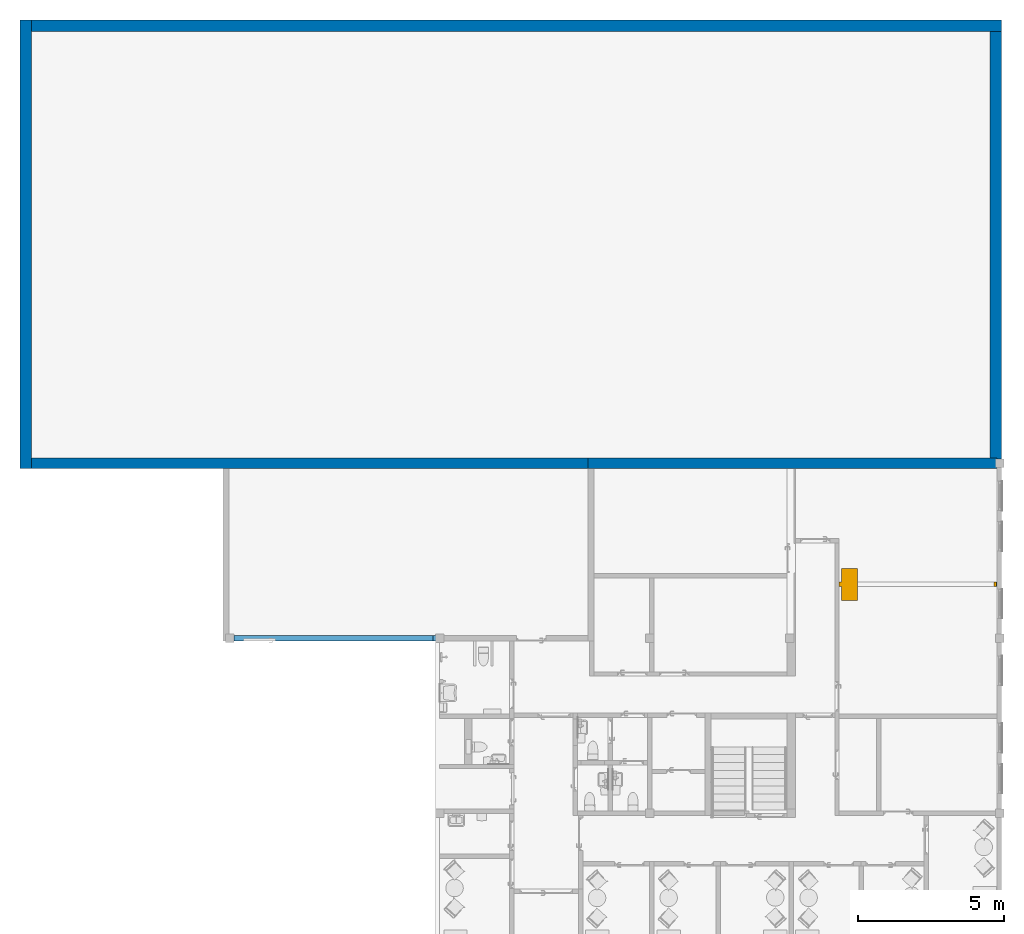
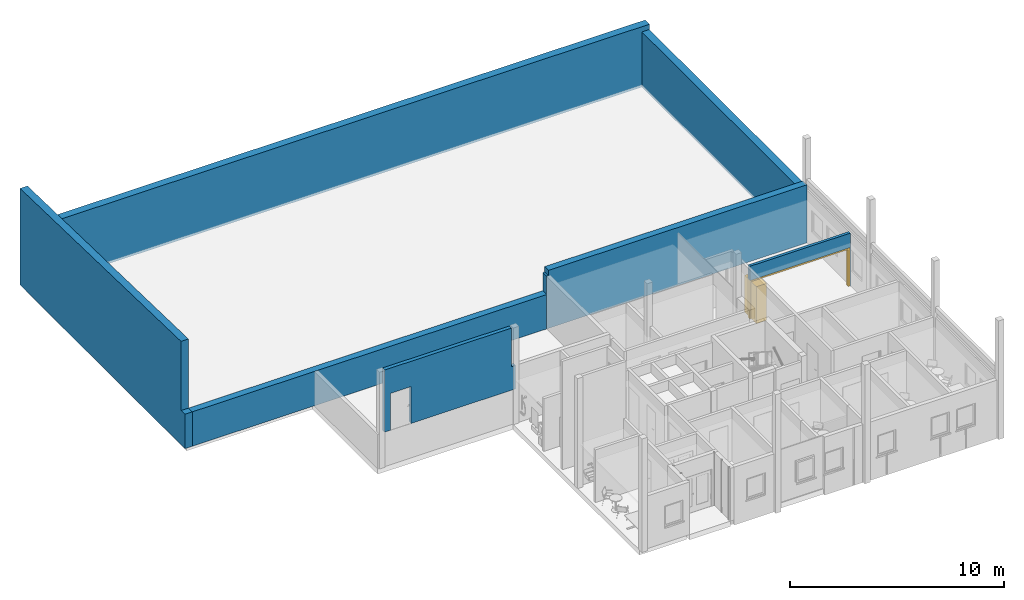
# One storey, part 36 of 58: 7 walls, 1 door, 2 openings.
"""IFC2X3 building model written with IfcOpenShell, lengths in millimetres."""

from ifc_helpers import new_model, entity, si_unit, converted_unit, derived_unit, direction, frame, frame_2d, origin, origin_2d_with_axis, place, context, subcontext, project, spatial, polyline, rectangle, outline, extrude, clip, bounded_halfspace, faceted_brep, source, transform, mapped, material, layer, layer_set, layer_usage, type_object, type_shapes, element, fill, save


model = new_model("IFC2X3")

# Units and contexts
model_context = context("Model", 3, precision=0.01, world=origin(), true_north=direction((0.7716245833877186, 0.6360782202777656)))
body_context = subcontext(model_context, "Body", "Model", "MODEL_VIEW")
ifc_project = project(units=[si_unit("LENGTHUNIT", "METRE", prefix="MILLI"), si_unit("AREAUNIT", "SQUARE_METRE"), converted_unit("PLANEANGLEUNIT", "DEGREE", entity("IfcPlaneAngleMeasure", 0.017453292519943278), si_unit("PLANEANGLEUNIT", "RADIAN"), dimensions=[0, 0, 0, 0, 0, 0, 0]), derived_unit("THERMALTRANSMITTANCEUNIT", [(si_unit("MASSUNIT", "GRAM", prefix="KILO"), 1), (si_unit("THERMODYNAMICTEMPERATUREUNIT", "KELVIN"), -1), (si_unit("TIMEUNIT", "SECOND"), -3)])], contexts=[model_context])

# Site, building, storey
site_placement = place(None, origin())
site = spatial("IfcSite", under=ifc_project, at=site_placement, Name="Default", CompositionType="ELEMENT")
building_placement = place(site_placement, origin())
building = spatial("IfcBuilding", under=site, at=building_placement, CompositionType="ELEMENT")
storey_placement = place(building_placement, frame((0.0, 0.0, 31140.0)))
storey = spatial("IfcBuildingStorey", under=building, at=storey_placement, Name="PLAN U1", CompositionType="ELEMENT", Elevation=31140.000000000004)

# Walls
ifc_material_1 = material(Name="Eksist. yttervegg")
ifc_layer_1 = layer(ifc_material_1, 400.0)
ifc_layer_set_1 = layer_set([ifc_layer_1], Name="Basic Wall:230 Eksist. yttervegg 400 mm")
ifc_layer_usage_1 = layer_usage(ifc_layer_set_1, "AXIS2", "NEGATIVE", 200.0)
wall_type_1 = type_object("IfcWallType", Name="Basic Wall:230 Eksist. yttervegg 400 mm", PredefinedType="STANDARD", material=ifc_layer_set_1)
wall_1_placement = place(storey_placement, frame((244724.00900454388, 86318.46747209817, -140.0)))
element("IfcWallStandardCase", 1, at=wall_1_placement, inside=storey, type_object=wall_type_1, material=ifc_layer_usage_1, Name="Basic Wall:230 Eksist. yttervegg 400 mm", ObjectType="Basic Wall:230 Eksist. yttervegg 400 mm", context=body_context, shape_type="SweptSolid", body=[
    extrude(rectangle(XDim=33266.24834305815, YDim=400.000000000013, at=frame_2d((16633.124171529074, 0.0), x_axis=(-1.0, 0.0))), origin(), (0.0, 0.0, 1.0), 3439.9999999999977),
])
wall_2_placement = place(storey_placement, frame((244524.00900454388, 71135.25555007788, 0.0), z_axis=(0.0, 0.0, 1.0), x_axis=(0.0, 1.0, 0.0)))
element("IfcWall", 2, at=wall_2_placement, inside=storey, type_object=wall_type_1, Name="Basic Wall:230 Eksist. yttervegg 400 mm", ObjectType="Basic Wall:230 Eksist. yttervegg 400 mm", context=body_context, shape_type="Brep", body=[
    faceted_brep([(0.0, -200.0, 0.0), (360.0, -200.0, 0.0), (15383.211922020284, -200.0, 0.0), (15383.211922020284, -200.0, 3300.0), (15383.211922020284, -200.0, 5499.224158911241), (360.0, -200.0, 5892.620808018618), (360.0, -200.0, 1960.0), (0.0, -200.0, 1960.0), (0.0, 200.0, 0.0), (0.0, 200.0, 1960.0), (360.0, 200.0, 1960.0), (360.0, 200.0, 5892.620808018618), (15383.211922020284, 200.0, 5499.224158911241), (15383.211922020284, 200.0, 0.0)], [[[0, 1, 2, 3, 4, 5, 6, 7]], [[8, 9, 10, 11, 12, 13]], [[2, 1, 0, 8, 13]], [[4, 3, 2, 13, 12]], [[6, 10, 9, 7]], [[0, 7, 9, 8]], [[6, 5, 11, 10]], [[5, 4, 12, 11]]]),
])
wall_3_placement = place(storey_placement, frame((277790.25734760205, 86118.46747209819, -140.0), z_axis=(0.0, 0.0, 1.0), x_axis=(0.0, -1.0, 0.0)))
element("IfcWall", 3, at=wall_3_placement, inside=storey, type_object=wall_type_1, Name="Basic Wall:230 Eksist. yttervegg 400 mm", ObjectType="Basic Wall:230 Eksist. yttervegg 400 mm", context=body_context, shape_type="Brep", body=[
    faceted_brep([(0.0, -200.0, 0.0), (14653.21192202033, -200.0, 0.0), (14653.21192202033, -200.0, 140.0), (14623.211922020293, -200.0, 140.0), (14623.211922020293, -200.0, 3140.0), (0.0, -200.0, 3140.0), (14653.21192202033, 200.0, 0.0), (0.0, 200.0, 0.0), (0.0, 200.0, 3140.0), (14653.21192202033, 200.0, 3140.0), (14653.21192202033, 40.0, 3140.0), (14653.21192202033, 40.0, 140.0), (14623.211922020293, 40.0, 140.0), (14623.211922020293, 40.0, 3140.0)], [[[0, 1, 2, 3, 4, 5]], [[6, 7, 8, 9]], [[1, 0, 7, 6]], [[1, 6, 9, 10, 11, 2]], [[7, 0, 5, 8]], [[3, 12, 13, 4]], [[12, 3, 2, 11]], [[12, 11, 10, 13]], [[5, 4, 13, 10, 9, 8]]]),
])
ifc_layer_2 = layer(ifc_material_1, 360.0)
ifc_layer_set_2 = layer_set([ifc_layer_2], Name="Basic Wall:230 Generisk yttervegg 360 mm")
wall_type_2 = type_object("IfcWallType", Name="Basic Wall:230 Generisk yttervegg 360 mm", PredefinedType="STANDARD", material=ifc_layer_set_2)
wall_4_placement = place(storey_placement, frame((277830.257347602, 71315.2555500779, 0.0), z_axis=(0.0, 0.0, 1.0), x_axis=(-1.0, 0.0, 0.0)))
element("IfcWall", 4, at=wall_4_placement, inside=storey, type_object=wall_type_2, Name="Basic Wall:230 Generisk yttervegg 360 mm", ObjectType="Basic Wall:230 Generisk yttervegg 360 mm", context=body_context, shape_type="Brep", body=[
    faceted_brep([(0.0, -180.0, 0.0), (240.0, -180.0, 0.0), (14022.332901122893, -180.0, 0.0), (14022.332901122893, -180.0, 1960.0), (14022.332901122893, -180.0, 3000.0), (13922.332901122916, -180.0, 3000.0), (13922.332901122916, -180.0, 3300.0), (0.0, -180.0, 3300.0), (0.0, -180.0, 3000.0), (0.0, 180.0, 0.0), (0.0, 180.0, 3300.0), (13922.332901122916, 180.0, 3300.0), (13922.332901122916, 180.0, 3000.0), (14022.332901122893, 180.0, 3000.0), (14022.332901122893, 180.0, 1960.0), (14022.332901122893, 180.0, 0.0), (13822.332901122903, 180.0, 0.0), (7212.332901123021, 180.0, 0.0), (6912.33290112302, 180.0, 0.0), (0.0, -150.0, 0.0)], [[[0, 1, 2, 3, 4, 5, 6, 7, 8]], [[9, 10, 11, 12, 13, 14, 15, 16, 17, 18]], [[2, 1, 0, 19, 9, 18, 17, 16, 15]], [[7, 6, 11, 10]], [[0, 8, 7, 10, 9, 19]], [[6, 5, 12, 11]], [[12, 5, 4, 13]], [[2, 15, 14, 13, 4, 3]]]),
])
ifc_layer_usage_2 = layer_usage(ifc_layer_set_2, "AXIS2", "NEGATIVE", 180.0)
wall_5_placement = place(storey_placement, frame((263807.9244464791, 71315.2555500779, 0.0), z_axis=(0.0, 0.0, 1.0), x_axis=(-1.0, 0.0, 0.0)))
element("IfcWallStandardCase", 5, at=wall_5_placement, inside=storey, type_object=wall_type_2, material=ifc_layer_usage_2, Name="Basic Wall:230 Generisk yttervegg 360 mm", ObjectType="Basic Wall:230 Generisk yttervegg 360 mm", context=body_context, shape_type="Clipping", body=[
    clip(extrude(rectangle(XDim=19083.915441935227, YDim=360.0000000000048, at=frame_2d((9541.957720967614, 0.0), x_axis=(-1.0, 0.0))), origin(), (0.0, 0.0, 1.0), 1959.9999999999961), bounded_halfspace(frame((0.0, -180.0, 1960.0), z_axis=(0.0, 0.0, -1.0), x_axis=(0.0, 1.0, 0.0)), True, frame((0.0, -180.0, 1960.0)), polyline([(0.0, 0.0), (19083.915441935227, 0.0), (19083.915441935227, 360.0), (12514.941867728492, 360.0), (12314.941867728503, 360.0), (0.0, 360.0), (0.0, 0.0)]))),
])

# Wall, opening, door
ifc_material_2 = material(Name="Eksist. vegg")
ifc_layer_3 = layer(ifc_material_2, 150.0)
ifc_layer_set_3 = layer_set([ifc_layer_3], Name="Basic Wall:240 Eksist. Innervegg 150 mm")
ifc_layer_usage_3 = layer_usage(ifc_layer_set_3, "AXIS2", "NEGATIVE", 75.0)
wall_type_3 = type_object("IfcWallType", Name="Basic Wall:240 Eksist. Innervegg 150 mm", PredefinedType="STANDARD", material=ifc_layer_set_3)
wall_6_placement = place(storey_placement, frame((272417.924446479, 67168.42310718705, 0.0)))
wall_6 = element("IfcWallStandardCase", 6, at=wall_6_placement, inside=storey, type_object=wall_type_3, material=ifc_layer_usage_3, Name="Basic Wall:240 Eksist. Innervegg 150 mm", ObjectType="Basic Wall:240 Eksist. Innervegg 150 mm", context=body_context, shape_type="SweptSolid", body=[
    extrude(rectangle(XDim=5412.332901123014, YDim=150.00000000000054, at=frame_2d((2706.166450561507, 0.0), x_axis=(-1.0, 0.0))), origin(), (0.0, 0.0, 1.0), 2999.9999999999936),
])
opening_1_placement = place(wall_6_placement, frame((5400.0, 75.0, 0.0)))
opening_1 = element("IfcOpeningElement", 7, at=opening_1_placement, cuts=wall_6, Name="FOLDEVEGG:244 Innvendig, FOLDE 5400x2100:1", ObjectType="Opening", context=body_context, shape_type="SweptSolid", body=[
    extrude(rectangle(XDim=2180.9999999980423, YDim=5399.999999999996, at=frame_2d((1090.4999999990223, 2700.000000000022), x_axis=(1.0, 0.0))), frame((0.0, 0.0, 0.0), z_axis=(0.0, -1.0, 0.0), x_axis=(0.0, 0.0, 1.0)), (0.0, 0.0, 1.0), 150.0),
])
ifc_material_3 = material(Name="<Unnamed>")
door_style = type_object("IfcDoorStyle", Name="FOLDEVEGG:244 Innvendig, FOLDE 5400x2100", ConstructionType="NOTDEFINED", OperationType="NOTDEFINED", ParameterTakesPrecedence=False, Sizeable=False, material=ifc_material_3)
shared_shape = source(origin(), body_context, "Body", "SweptSolid", [
    extrude(outline(polyline([(-2706.2500000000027, -1070.249999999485), (-2606.2500000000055, -1070.249999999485), (-2606.2500000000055, 1029.7500000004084), (2618.750000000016, 1029.7500000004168), (2618.750000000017, -1070.249999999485), (2693.7499999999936, -1070.249999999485), (2693.7499999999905, 1110.750000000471), (-2706.250000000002, 1110.7499999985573), (-2706.2500000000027, -1070.249999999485)])), frame((2706.250000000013, 150.0, 1070.249999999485), z_axis=(0.0, -1.0, 0.0), x_axis=(1.0, 0.0, 0.0)), (0.0, 0.0, 1.0), 149.99999999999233),
    extrude(rectangle(XDim=1090.0000000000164, YDim=109.9999999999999, at=frame_2d((-5.684341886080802e-14, 0.0), x_axis=(1.0, 0.0))), frame((4830.0, 79.99999999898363, 0.0), z_axis=(0.0, 0.0, 1.0), x_axis=(0.0, -1.0, 0.0)), (0.0, 0.0, 1.0), 2099.9999999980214),
    extrude(rectangle(XDim=1090.0000000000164, YDim=109.99999999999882, at=origin_2d_with_axis()), frame((4940.0, 79.99999999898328, 0.0), z_axis=(0.0, 0.0, 1.0), x_axis=(0.0, -1.0, 0.0)), (0.0, 0.0, 1.0), 2099.9999999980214),
    extrude(rectangle(XDim=1090.0000000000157, YDim=110.00000000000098, at=origin_2d_with_axis()), frame((5050.0, 79.99999999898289, 0.0), z_axis=(0.0, 0.0, 1.0), x_axis=(0.0, -1.0, 0.0)), (0.0, 0.0, 1.0), 2099.9999999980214),
    extrude(rectangle(XDim=1090.000000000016, YDim=110.0000000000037, at=frame_2d((0.0, -2.7355895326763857e-13), x_axis=(1.0, 0.0))), frame((5160.0, 79.99999999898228, 0.0), z_axis=(0.0, 0.0, 1.0), x_axis=(0.0, -1.0, 0.0)), (0.0, 0.0, 1.0), 2099.999999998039),
    extrude(rectangle(XDim=1090.0, YDim=109.99999999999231, at=origin_2d_with_axis()), frame((5270.0, 80.0, 0.0), z_axis=(0.0, 0.0, 1.0), x_axis=(0.0, -1.0, 0.0)), (0.0, 0.0, 1.0), 2099.999999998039),
])
type_shapes(door_style, [shared_shape])
door_placement = place(opening_1_placement, frame((0.0, 0.0, 0.0), z_axis=(0.0, 0.0, 1.0), x_axis=(-1.0, 0.0, 0.0)))
door = element("IfcDoor", 8, at=door_placement, inside=storey, type_object=door_style, material=ifc_material_3, Name="FOLDEVEGG:244 Innvendig, FOLDE 5400x2100", ObjectType="FOLDEVEGG:244 Innvendig, FOLDE 5400x2100", OverallHeight=2180.9999999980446, OverallWidth=5400.00000000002, context=body_context, shape_type="MappedRepresentation", body=[
    mapped(shared_shape, transform((0.0, 0.0, 0.0), scale=1.0)),
])
fill(opening_1, door)

# Wall, opening
ifc_layer_4 = layer(ifc_material_2, 200.0)
ifc_layer_set_4 = layer_set([ifc_layer_4], Name="Basic Wall:240 Eksist. innervegg 200 mm")
wall_type_4 = type_object("IfcWallType", Name="Basic Wall:240 Eksist. innervegg 200 mm", PredefinedType="STANDARD", material=ifc_layer_set_4)
wall_7_placement = place(storey_placement, frame((251667.924446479, 65315.25555007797, 1960.0)))
wall_7 = element("IfcWall", 9, at=wall_7_placement, inside=storey, type_object=wall_type_4, Name="Basic Wall:240 Eksist. innervegg 200 mm", ObjectType="Basic Wall:240 Eksist. innervegg 200 mm", context=body_context, shape_type="Brep", body=[
    faceted_brep([(6825.058132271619, -100.0, 1340.0), (6825.058132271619, -100.0, 3540.0), (0.0, -100.0, 3540.0), (0.0, -100.0, 0.0), (315.05813227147, -100.0, 0.0), (315.05813227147, -100.0, 2100.0), (415.0581322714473, -100.0, 2100.0), (1425.0581322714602, -100.0, 2100.0), (1425.0581322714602, -100.0, 0.0), (7050.0, -100.0, 0.0), (7050.0, -100.0, 1340.0), (6825.058132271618, 100.0, 3540.0), (6825.058132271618, 100.0, 1340.0), (7050.0, 100.0, 1340.0), (7050.0, 100.0, 0.0), (1425.0581322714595, 100.0, 0.0), (1425.0581322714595, 100.0, 2100.0), (415.05813227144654, 100.0, 2100.0), (315.0581322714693, 100.0, 2100.0), (315.0581322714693, 100.0, 0.0), (0.0, 100.0, 0.0), (0.0, 100.0, 3540.0)], [[[0, 1, 2, 3, 4, 5, 6, 7, 8, 9, 10]], [[11, 12, 13, 14, 15, 16, 17, 18, 19, 20, 21]], [[19, 4, 3, 20]], [[1, 11, 21, 2]], [[11, 1, 0, 12]], [[12, 0, 10, 13]], [[10, 9, 14, 13]], [[18, 5, 4, 19]], [[5, 18, 17, 16, 7, 6]], [[7, 16, 15, 8]], [[3, 2, 21, 20]], [[14, 9, 8, 15]]]),
])
opening_2_placement = place(wall_7_placement, frame((1425.0581322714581, 100.0, 0.0)))
element("IfcOpeningElement", 10, at=opening_2_placement, cuts=wall_7, Name="Enfløyet:244 Innvendig AAa 11x21M - Tett:1", ObjectType="Opening", context=body_context, shape_type="SweptSolid", body=[
    extrude(rectangle(XDim=2100.0, YDim=1109.9999999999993, at=frame_2d((1049.9999999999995, 554.9999999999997), x_axis=(1.0, 0.0))), frame((0.0, 0.0, 0.0), z_axis=(0.0, -1.0, 0.0), x_axis=(0.0, 0.0, 1.0)), (0.0, 0.0, 1.0), 200.0),
])

save(model, "model.ifc")
